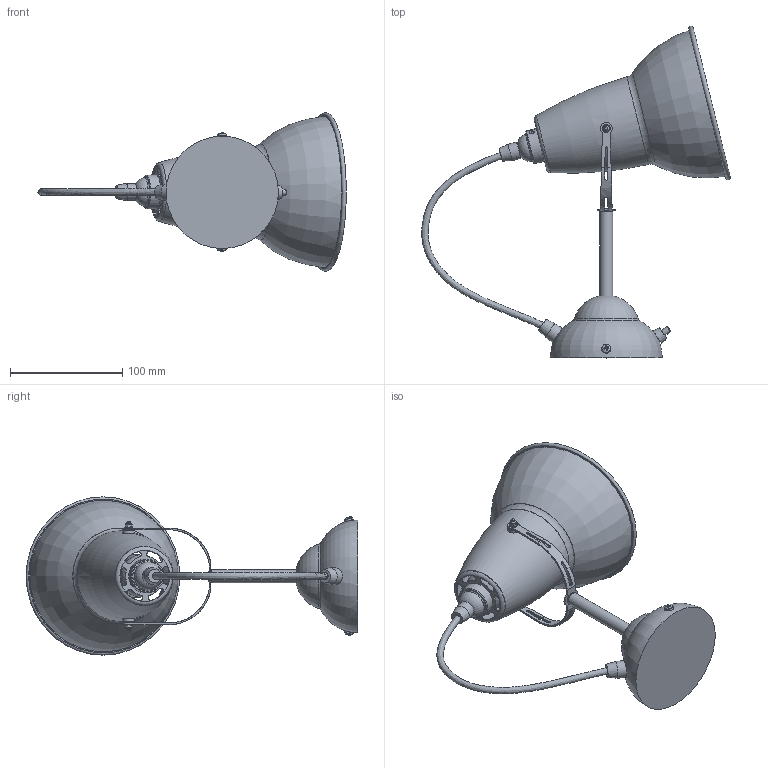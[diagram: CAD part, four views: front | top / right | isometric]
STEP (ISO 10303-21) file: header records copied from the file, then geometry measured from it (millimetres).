
FILE_DESCRIPTION (( 'STEP AP214' ), '1' );
FILE_NAME ('Duo_Wall_Light_Assembly_DF_01.STEP', '2014-10-28T10:02:09', ( '' ), ( '' ), 'SwSTEP 2.0', 'SolidWorks 2014', '' );
FILE_SCHEMA (( 'AUTOMOTIVE_DESIGN' ));
Length unit declared in the file: millimetre
Products named in the file (1): Duo_Wall_Light_Assembly_DF_01
Bounding box: 274.71 x 295.54 x 141 mm (x, y, z)
Volume: 421804.4 mm3; surface area: 160580 mm2
Topology: 1 solids, 1 shells, 400 faces, 1013 edges, 647 vertices
Faces by surface type: plane 185, cylinder 82, bspline 72, torus 33, cone 14, sphere 14
Full cylindrical faces by diameter (mm): 2.8 x3, 4 x1, 5 x2, 5.5 x1, 7 x1, 8 x2, 9 x3, 10 x3, 11 x1, 11.5 x1, 13.335 x2, 15 x2, 25 x1, 30 x1, 37.5 x1, 38.1 x1, 135 x1
Entity records: 17837 total; most frequent: CARTESIAN_POINT 7768, ORIENTED_EDGE 1790, DIRECTION 1515, EDGE_CURVE 895, VERTEX_POINT 612, AXIS2_PLACEMENT_3D 591, EDGE_LOOP 555, FACE_OUTER_BOUND 468
